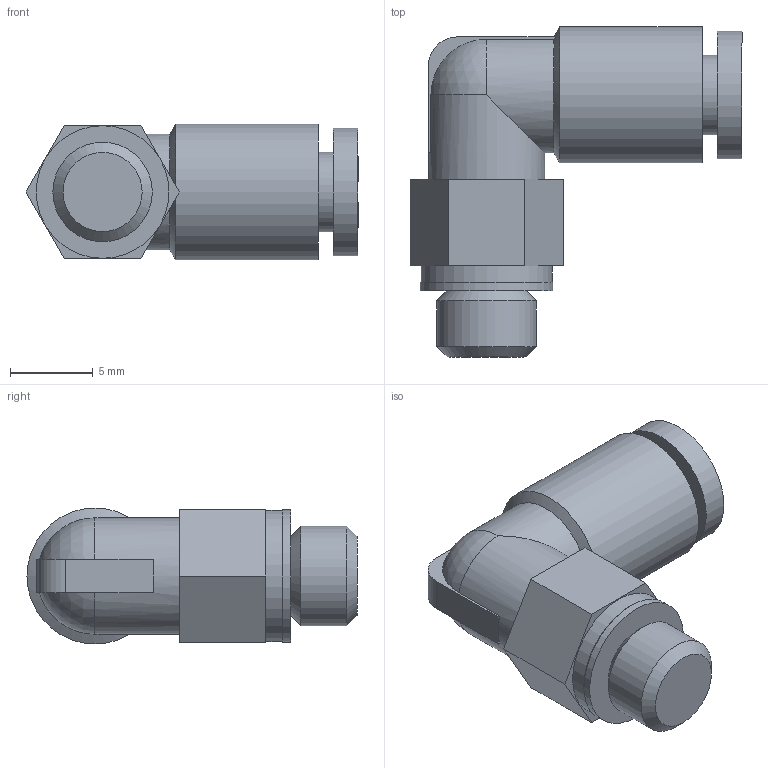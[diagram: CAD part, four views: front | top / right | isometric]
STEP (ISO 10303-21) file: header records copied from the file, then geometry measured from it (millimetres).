
FILE_DESCRIPTION(/* description */ ('STEP AP214'),/* implementation_level */ '2;1');
FILE_NAME(/* name */ 'KQ2L04-M6A',/* time_stamp */ '2023-03-09T07:28:17+01:00',/* author */ ('License CC BY-ND 4.0'),/* organization */ ('CADENAS'),/* preprocessor_version */ 'ST-DEVELOPER v19.3',/* originating_system */ 'PARTsolutions',/* authorisation */ ' ');
FILE_SCHEMA (('AUTOMOTIVE_DESIGN {1 0 10303 214 3 1 1}'));
Length unit declared in the file: millimetre
Products named in the file (1): KQ2L04-M6A
Bounding box: 20.02 x 19.9 x 8.2 mm (x, y, z)
Volume: 1203 mm3; surface area: 1102.7 mm2
Topology: 1 solids, 1 shells, 36 faces, 76 edges, 49 vertices
Faces by surface type: plane 21, cylinder 10, cone 3, sphere 2
Full cylindrical faces by diameter (mm): 4 x1, 4.8 x1, 6 x1, 7 x1, 7.7 x1, 7.9 x1, 8 x1, 8.2 x1
Entity records: 938 total; most frequent: DIRECTION 164, CARTESIAN_POINT 158, ORIENTED_EDGE 128, AXIS2_PLACEMENT_3D 66, EDGE_CURVE 64, EDGE_LOOP 54, FACE_BOUND 54, VERTEX_POINT 48
